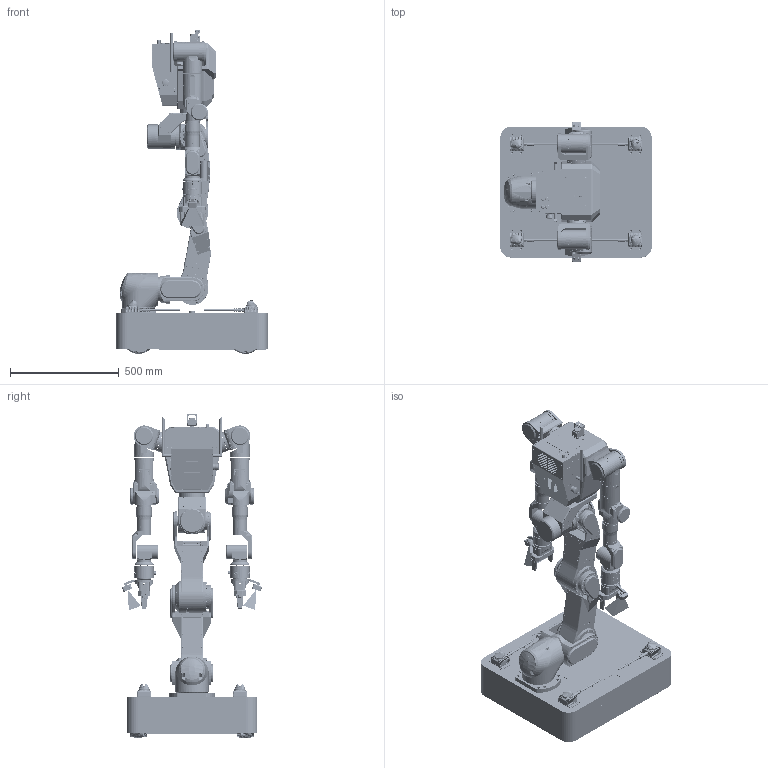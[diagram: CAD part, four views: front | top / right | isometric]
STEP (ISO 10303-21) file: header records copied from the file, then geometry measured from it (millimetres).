
FILE_DESCRIPTION(/* description */ (''),/* implementation_level */ '2;1');
FILE_NAME(/* name */ 'RB-Y1_v1.1_3D_Power Grip_MW_260107.stp',/* time_stamp */ '2026-01-08T17:52:13+09:00',/* author */ ('KiWook.H'),/* organization */ (''),/* preprocessor_version */ 'ST-DEVELOPER v20',/* originating_system */ 'Autodesk Inventor 2025',/* authorisation */ '');
FILE_SCHEMA (('AUTOMOTIVE_DESIGN { 1 0 10303 214 3 1 1 }'));
Products named in the file (22): RB-Y1_v1.1_3D_Power Grip_MW_260107; 000_Base_Macanum_v1.1; 001_AR_v1.1; 002_AP_v1.1; 003_KN_v1.1; 004_HP_v1.1; 005_HR_v1.1; 006_HY_v1.1; 007_SP_R_v1.1; 008_SR_R_v1.1; 009_SY_R_v1.1; 010_EL_R_v1.1; 011_WY1_R_v1.1; 012_WP_R_v1.1; 014_SP_L_v1.1; 015_SR_L_v1.1; 016_SY_L_v1.1; 017_EL_L_v1.1; 018_WY1_L_v1.1; 019_WP_L_v1.1; 020_FTsensor TF_v1.1; 021_Gripper_Power_v1.1
Assembly tree (23 placements, depth 2):
  RB-Y1_v1.1_3D_Power Grip_MW_260107
    000_Base_Macanum_v1.1
    001_AR_v1.1
    002_AP_v1.1
    003_KN_v1.1
    004_HP_v1.1
    005_HR_v1.1
    006_HY_v1.1
    007_SP_R_v1.1
    008_SR_R_v1.1
    009_SY_R_v1.1
    010_EL_R_v1.1
    011_WY1_R_v1.1
    012_WP_R_v1.1
    014_SP_L_v1.1
    015_SR_L_v1.1
    016_SY_L_v1.1
    017_EL_L_v1.1
    018_WY1_L_v1.1
    019_WP_L_v1.1
    020_FTsensor TF_v1.1  x2
    021_Gripper_Power_v1.1  x2
Bounding box: 695 x 642.81 x 1486.2 mm (x, y, z)
Volume: 92685914 mm3; surface area: 7144184 mm2
Topology: 1669 solids, 2354 shells, 31343 faces, 78892 edges, 50630 vertices
Faces by surface type: plane 14067, cylinder 9202, cone 2634, torus 2179, sphere 1631, bspline 1630
Full cylindrical faces by diameter (mm): 0.6 x48, 0.7 x16, 0.9 x48, 1 x48, 1.03 x16, 1.5 x10, 1.567 x16, 1.6 x136, 1.7 x10, 2 x16, 2.013 x4, 2.05 x16, 2.2 x4, 2.4 x16, 2.459 x76, 2.5 x59, 2.6 x4, 2.693 x10, 3 x202, 3.1 x10, 3.2 x44, 3.242 x37, 3.3 x8, 3.4 x20, 3.571 x4, 3.9 x1, 4 x119, 4.134 x68, 4.2 x24, 4.5 x70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
Entity records: 1194790 total; most frequent: CARTESIAN_POINT 473129, DIRECTION 146364, ORIENTED_EDGE 142786, EDGE_CURVE 71409, AXIS2_PLACEMENT_3D 56803, VERTEX_POINT 48259, EDGE_LOOP 33470, LINE 32758
